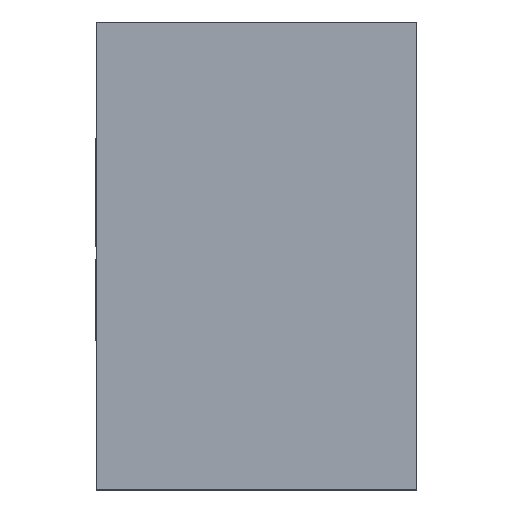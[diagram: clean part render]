
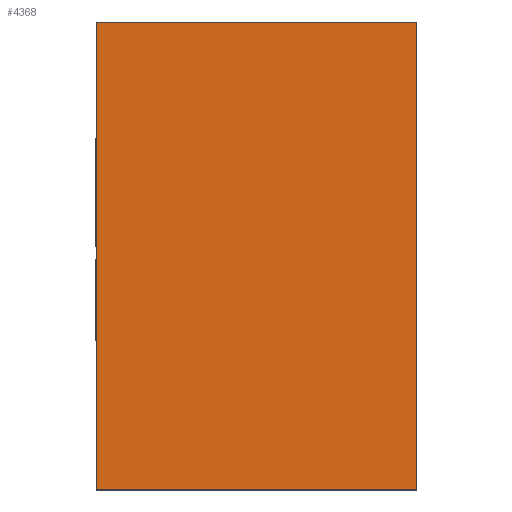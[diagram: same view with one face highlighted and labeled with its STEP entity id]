
A CAD part, top view. The second image highlights one B-rep face of the part: STEP entity #4368.
In plain terms, the highlighted planar face has unit normal (0, 0, 1).
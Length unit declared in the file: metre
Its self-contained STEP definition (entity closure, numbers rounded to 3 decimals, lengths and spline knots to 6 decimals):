
#404=LINE('',#8780,#777);
#407=LINE('',#8786,#780);
#408=LINE('',#8788,#781);
#409=LINE('',#8790,#782);
#777=VECTOR('',#7044,1.);
#780=VECTOR('',#7049,1.);
#781=VECTOR('',#7050,1.);
#782=VECTOR('',#7051,1.);
#2190=ORIENTED_EDGE('',*,*,#2975,.T.);
#2191=ORIENTED_EDGE('',*,*,#2972,.F.);
#2192=ORIENTED_EDGE('',*,*,#2976,.F.);
#2193=ORIENTED_EDGE('',*,*,#2977,.T.);
#2972=EDGE_CURVE('',#3371,#3372,#404,.T.);
#2975=EDGE_CURVE('',#3374,#3372,#407,.T.);
#2976=EDGE_CURVE('',#3375,#3371,#408,.T.);
#2977=EDGE_CURVE('',#3375,#3374,#409,.T.);
#3371=VERTEX_POINT('',#8779);
#3372=VERTEX_POINT('',#8781);
#3374=VERTEX_POINT('',#8787);
#3375=VERTEX_POINT('',#8789);
#3741=EDGE_LOOP('',(#2190,#2191,#2192,#2193));
#3990=FACE_BOUND('',#3741,.T.);
#4138=PLANE('',#6021);
#4368=ADVANCED_FACE('',(#3990),#4138,.T.);
#6021=AXIS2_PLACEMENT_3D('',#8785,#7047,#7048);
#7044=DIRECTION('',(0.,-1.,0.));
#7047=DIRECTION('',(0.,0.,1.));
#7048=DIRECTION('',(0.,1.,0.));
#7049=DIRECTION('',(1.,0.,0.));
#7050=DIRECTION('',(1.,0.,0.));
#7051=DIRECTION('',(0.,-1.,0.));
#8779=CARTESIAN_POINT('',(-0.073814,-0.021538,0.01005));
#8780=CARTESIAN_POINT('',(-0.073814,-0.023438,0.01005));
#8781=CARTESIAN_POINT('',(-0.073814,-0.023438,0.01005));
#8785=CARTESIAN_POINT('',(-0.075114,-0.023438,0.01005));
#8786=CARTESIAN_POINT('',(-0.075114,-0.023438,0.01005));
#8787=CARTESIAN_POINT('',(-0.075114,-0.023438,0.01005));
#8788=CARTESIAN_POINT('',(-0.075114,-0.021538,0.01005));
#8789=CARTESIAN_POINT('',(-0.075114,-0.021538,0.01005));
#8790=CARTESIAN_POINT('',(-0.075114,-0.023438,0.01005));
